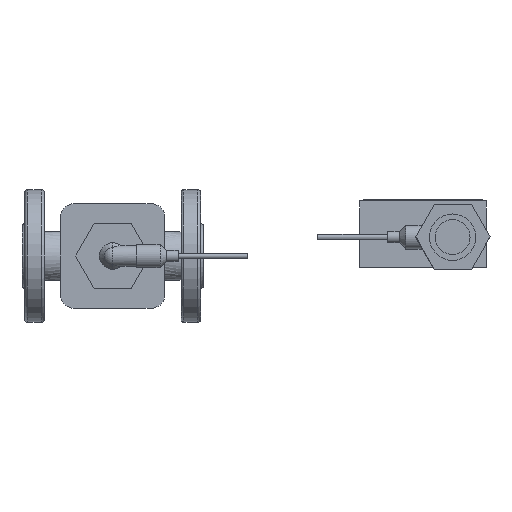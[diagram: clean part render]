
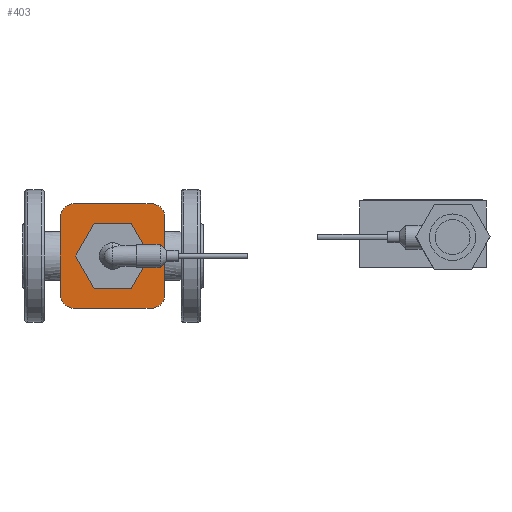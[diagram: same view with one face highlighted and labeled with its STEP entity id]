
A CAD part, front view. The second image highlights one B-rep face of the part: STEP entity #403.
In plain terms, the highlighted planar face has unit normal (0, -1, 0).
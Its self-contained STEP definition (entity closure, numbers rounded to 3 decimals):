
#228 = ORIENTED_EDGE ( 'NONE', *, *, #419, .F. ) ;
#403 = ADVANCED_FACE ( 'NONE', ( #3595, #3594 ), #3593, .F. ) ;
#406 = EDGE_LOOP ( 'NONE', ( #407, #408, #410, #411, #412, #228, #508, #496 ) ) ;
#407 = ORIENTED_EDGE ( 'NONE', *, *, #574, .F. ) ;
#408 = ORIENTED_EDGE ( 'NONE', *, *, #409, .F. ) ;
#409 = EDGE_CURVE ( 'NONE', #539, #575, #3616, .T. ) ;
#410 = ORIENTED_EDGE ( 'NONE', *, *, #559, .F. ) ;
#411 = ORIENTED_EDGE ( 'NONE', *, *, #552, .F. ) ;
#412 = ORIENTED_EDGE ( 'NONE', *, *, #543, .F. ) ;
#419 = EDGE_CURVE ( 'NONE', #553, #544, #3601, .T. ) ;
#429 = EDGE_CURVE ( 'NONE', #430, #564, #3568, .T. ) ;
#430 = VERTEX_POINT ( 'NONE', #3560 ) ;
#447 = EDGE_CURVE ( 'NONE', #977, #978, #3532, .T. ) ;
#496 = ORIENTED_EDGE ( 'NONE', *, *, #429, .F. ) ;
#505 = ORIENTED_EDGE ( 'NONE', *, *, #506, .T. ) ;
#506 = EDGE_CURVE ( 'NONE', #978, #977, #2929, .T. ) ;
#508 = ORIENTED_EDGE ( 'NONE', *, *, #563, .F. ) ;
#538 = VERTEX_POINT ( 'NONE', #3833 ) ;
#539 = VERTEX_POINT ( 'NONE', #3832 ) ;
#543 = EDGE_CURVE ( 'NONE', #544, #545, #3820, .T. ) ;
#544 = VERTEX_POINT ( 'NONE', #3816 ) ;
#545 = VERTEX_POINT ( 'NONE', #3815 ) ;
#552 = EDGE_CURVE ( 'NONE', #545, #538, #3800, .T. ) ;
#553 = VERTEX_POINT ( 'NONE', #3796 ) ;
#559 = EDGE_CURVE ( 'NONE', #538, #539, #3791, .T. ) ;
#563 = EDGE_CURVE ( 'NONE', #564, #553, #3681, .T. ) ;
#564 = VERTEX_POINT ( 'NONE', #3676 ) ;
#574 = EDGE_CURVE ( 'NONE', #575, #430, #3752, .T. ) ;
#575 = VERTEX_POINT ( 'NONE', #3748 ) ;
#854 = EDGE_LOOP ( 'NONE', ( #976, #505 ) ) ;
#976 = ORIENTED_EDGE ( 'NONE', *, *, #447, .T. ) ;
#977 = VERTEX_POINT ( 'NONE', #4669 ) ;
#978 = VERTEX_POINT ( 'NONE', #4668 ) ;
#2651 = DIRECTION ( 'NONE',  ( 0., 0., 1. ) ) ;
#2926 = DIRECTION ( 'NONE',  ( 0., 1., 0. ) ) ;
#2927 = CARTESIAN_POINT ( 'NONE',  ( 8.25, 1009.521, 0. ) ) ;
#2928 = AXIS2_PLACEMENT_3D ( 'NONE', #2927, #2926, #2651 ) ;
#2929 = CIRCLE ( 'NONE', #2928, 21. ) ;
#3528 = DIRECTION ( 'NONE',  ( 0., 0., 1. ) ) ;
#3529 = DIRECTION ( 'NONE',  ( 0., 1., 0. ) ) ;
#3530 = CARTESIAN_POINT ( 'NONE',  ( 8.25, 1009.521, 0. ) ) ;
#3531 = AXIS2_PLACEMENT_3D ( 'NONE', #3530, #3529, #3528 ) ;
#3532 = CIRCLE ( 'NONE', #3531, 21. ) ;
#3560 = CARTESIAN_POINT ( 'NONE',  ( -29.25, 1009.521, -27.5 ) ) ;
#3561 = DIRECTION ( 'NONE',  ( 0., 0., 1. ) ) ;
#3562 = VECTOR ( 'NONE', #3561, 1000. ) ;
#3568 = LINE ( 'NONE', #3573, #3562 ) ;
#3573 = CARTESIAN_POINT ( 'NONE',  ( -29.25, 1009.521, -27.5 ) ) ;
#3580 = DIRECTION ( 'NONE',  ( 1., 0., 0. ) ) ;
#3581 = VECTOR ( 'NONE', #3580, 1000. ) ;
#3593 = PLANE ( 'NONE',  #3625 ) ;
#3594 = FACE_BOUND ( 'NONE', #854, .T. ) ;
#3595 = FACE_OUTER_BOUND ( 'NONE', #406, .T. ) ;
#3601 = LINE ( 'NONE', #3606, #3581 ) ;
#3606 = CARTESIAN_POINT ( 'NONE',  ( 35.75, 1009.521, 37.5 ) ) ;
#3613 = DIRECTION ( 'NONE',  ( -1., 0., 0. ) ) ;
#3614 = VECTOR ( 'NONE', #3613, 1000. ) ;
#3615 = CARTESIAN_POINT ( 'NONE',  ( -19.25, 1009.521, -37.5 ) ) ;
#3616 = LINE ( 'NONE', #3615, #3614 ) ;
#3622 = DIRECTION ( 'NONE',  ( 0., 0., 1. ) ) ;
#3623 = DIRECTION ( 'NONE',  ( 0., 1., 0. ) ) ;
#3624 = CARTESIAN_POINT ( 'NONE',  ( -19.25, 1009.521, -27.5 ) ) ;
#3625 = AXIS2_PLACEMENT_3D ( 'NONE', #3624, #3623, #3622 ) ;
#3666 = CARTESIAN_POINT ( 'NONE',  ( -19.25, 1009.521, -27.5 ) ) ;
#3676 = CARTESIAN_POINT ( 'NONE',  ( -29.25, 1009.521, 27.5 ) ) ;
#3677 = DIRECTION ( 'NONE',  ( 0., 0., 1. ) ) ;
#3678 = DIRECTION ( 'NONE',  ( 0., 1., 0. ) ) ;
#3679 = CARTESIAN_POINT ( 'NONE',  ( -19.25, 1009.521, 27.5 ) ) ;
#3680 = AXIS2_PLACEMENT_3D ( 'NONE', #3679, #3678, #3677 ) ;
#3681 = CIRCLE ( 'NONE', #3680, 10. ) ;
#3748 = CARTESIAN_POINT ( 'NONE',  ( -19.25, 1009.521, -37.5 ) ) ;
#3749 = DIRECTION ( 'NONE',  ( 0., 0., 1. ) ) ;
#3750 = DIRECTION ( 'NONE',  ( 0., 1., 0. ) ) ;
#3751 = AXIS2_PLACEMENT_3D ( 'NONE', #3666, #3750, #3749 ) ;
#3752 = CIRCLE ( 'NONE', #3751, 10. ) ;
#3787 = DIRECTION ( 'NONE',  ( 0., 0., 1. ) ) ;
#3788 = DIRECTION ( 'NONE',  ( 0., 1., 0. ) ) ;
#3789 = CARTESIAN_POINT ( 'NONE',  ( 35.75, 1009.521, -27.5 ) ) ;
#3790 = AXIS2_PLACEMENT_3D ( 'NONE', #3789, #3788, #3787 ) ;
#3791 = CIRCLE ( 'NONE', #3790, 10. ) ;
#3796 = CARTESIAN_POINT ( 'NONE',  ( -19.25, 1009.521, 37.5 ) ) ;
#3797 = DIRECTION ( 'NONE',  ( 0., 0., -1. ) ) ;
#3798 = VECTOR ( 'NONE', #3797, 1000. ) ;
#3799 = CARTESIAN_POINT ( 'NONE',  ( 45.75, 1009.521, -27.5 ) ) ;
#3800 = LINE ( 'NONE', #3799, #3798 ) ;
#3815 = CARTESIAN_POINT ( 'NONE',  ( 45.75, 1009.521, 27.5 ) ) ;
#3816 = CARTESIAN_POINT ( 'NONE',  ( 35.75, 1009.521, 37.5 ) ) ;
#3817 = DIRECTION ( 'NONE',  ( 0., 0., 1. ) ) ;
#3818 = DIRECTION ( 'NONE',  ( 0., 1., 0. ) ) ;
#3819 = AXIS2_PLACEMENT_3D ( 'NONE', #3825, #3818, #3817 ) ;
#3820 = CIRCLE ( 'NONE', #3819, 10. ) ;
#3825 = CARTESIAN_POINT ( 'NONE',  ( 35.75, 1009.521, 27.5 ) ) ;
#3832 = CARTESIAN_POINT ( 'NONE',  ( 35.75, 1009.521, -37.5 ) ) ;
#3833 = CARTESIAN_POINT ( 'NONE',  ( 45.75, 1009.521, -27.5 ) ) ;
#4668 = CARTESIAN_POINT ( 'NONE',  ( 8.25, 1009.521, -21. ) ) ;
#4669 = CARTESIAN_POINT ( 'NONE',  ( 8.25, 1009.521, 21. ) ) ;
